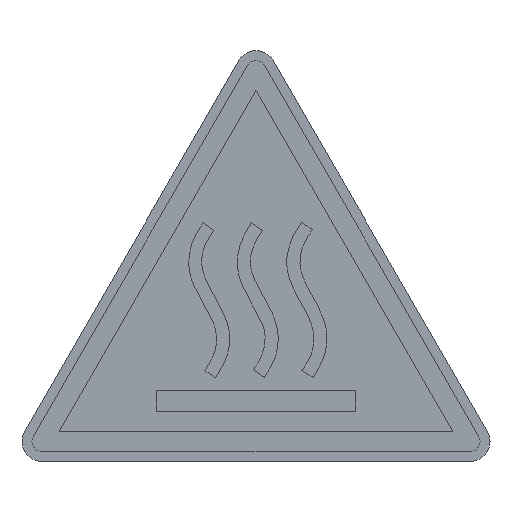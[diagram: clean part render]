
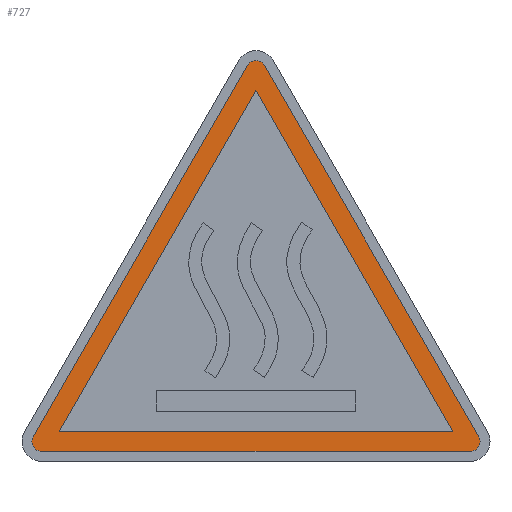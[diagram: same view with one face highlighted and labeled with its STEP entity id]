
A CAD part, top view. The second image highlights one B-rep face of the part: STEP entity #727.
In plain terms, the highlighted planar face has unit normal (0, 0, 1).
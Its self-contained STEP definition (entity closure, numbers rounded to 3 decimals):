
#32 = CARTESIAN_POINT ( 'NONE',  ( 0., 39.301, 0.22 ) ) ;
#37 = PLANE ( 'NONE',  #1586 ) ;
#65 = LINE ( 'NONE', #1254, #1552 ) ;
#87 = CIRCLE ( 'NONE', #310, 1. ) ;
#159 = CARTESIAN_POINT ( 'NONE',  ( 19.804, 3., 0.22 ) ) ;
#160 = CARTESIAN_POINT ( 'NONE',  ( 0., 37.301, 0.22 ) ) ;
#162 = CARTESIAN_POINT ( 'NONE',  ( -21.536, 2., 0.22 ) ) ;
#163 = CIRCLE ( 'NONE', #905, 1. ) ;
#211 = EDGE_CURVE ( 'NONE', #824, #1901, #65, .T. ) ;
#219 = VECTOR ( 'NONE', #1136, 1000. ) ;
#242 = ORIENTED_EDGE ( 'NONE', *, *, #1148, .T. ) ;
#305 = AXIS2_PLACEMENT_3D ( 'NONE', #810, #477, #1407 ) ;
#310 = AXIS2_PLACEMENT_3D ( 'NONE', #162, #319, #603 ) ;
#316 = FACE_BOUND ( 'NONE', #1128, .T. ) ;
#319 = DIRECTION ( 'NONE',  ( 0., 0., 1. ) ) ;
#323 = CARTESIAN_POINT ( 'NONE',  ( -19.804, 3., 0.22 ) ) ;
#345 = CARTESIAN_POINT ( 'NONE',  ( 22.402, 2.5, 0.22 ) ) ;
#363 = VERTEX_POINT ( 'NONE', #652 ) ;
#382 = ORIENTED_EDGE ( 'NONE', *, *, #555, .T. ) ;
#398 = CARTESIAN_POINT ( 'NONE',  ( 21.536, 1., 0.22 ) ) ;
#477 = DIRECTION ( 'NONE',  ( 0., 0., 1. ) ) ;
#478 = LINE ( 'NONE', #159, #1037 ) ;
#481 = DIRECTION ( 'NONE',  ( 0., 0., 1. ) ) ;
#486 = DIRECTION ( 'NONE',  ( 1., 0., 0. ) ) ;
#549 = ORIENTED_EDGE ( 'NONE', *, *, #1019, .F. ) ;
#555 = EDGE_CURVE ( 'NONE', #557, #824, #163, .T. ) ;
#557 = VERTEX_POINT ( 'NONE', #605 ) ;
#565 = AXIS2_PLACEMENT_3D ( 'NONE', #1380, #1224, #1539 ) ;
#600 = CARTESIAN_POINT ( 'NONE',  ( -22.536, 2., 0.22 ) ) ;
#603 = DIRECTION ( 'NONE',  ( 1., 0., 0. ) ) ;
#605 = CARTESIAN_POINT ( 'NONE',  ( 0.866, 39.801, 0.22 ) ) ;
#619 = DIRECTION ( 'NONE',  ( -0.5, 0.866, 0. ) ) ;
#630 = CARTESIAN_POINT ( 'NONE',  ( 0., 39.301, 0.22 ) ) ;
#634 = EDGE_CURVE ( 'NONE', #1901, #717, #1413, .T. ) ;
#652 = CARTESIAN_POINT ( 'NONE',  ( -21.536, 1., 0.22 ) ) ;
#684 = VECTOR ( 'NONE', #788, 1000. ) ;
#708 = CIRCLE ( 'NONE', #305, 1. ) ;
#717 = VERTEX_POINT ( 'NONE', #600 ) ;
#727 = ADVANCED_FACE ( 'NONE', ( #1500, #316 ), #37, .T. ) ;
#729 = LINE ( 'NONE', #160, #1187 ) ;
#788 = DIRECTION ( 'NONE',  ( 1., 0., 0. ) ) ;
#810 = CARTESIAN_POINT ( 'NONE',  ( 21.536, 2., 0.22 ) ) ;
#824 = VERTEX_POINT ( 'NONE', #1779 ) ;
#841 = EDGE_CURVE ( 'NONE', #717, #363, #87, .T. ) ;
#845 = VERTEX_POINT ( 'NONE', #1526 ) ;
#852 = ORIENTED_EDGE ( 'NONE', *, *, #1123, .F. ) ;
#864 = VERTEX_POINT ( 'NONE', #323 ) ;
#875 = EDGE_LOOP ( 'NONE', ( #382, #1020, #969, #1844, #1157, #1866, #242 ) ) ;
#905 = AXIS2_PLACEMENT_3D ( 'NONE', #32, #481, #1201 ) ;
#932 = DIRECTION ( 'NONE',  ( 0., 0., 1. ) ) ;
#969 = ORIENTED_EDGE ( 'NONE', *, *, #634, .T. ) ;
#983 = ORIENTED_EDGE ( 'NONE', *, *, #986, .F. ) ;
#986 = EDGE_CURVE ( 'NONE', #845, #1428, #478, .T. ) ;
#1019 = EDGE_CURVE ( 'NONE', #864, #845, #1543, .T. ) ;
#1020 = ORIENTED_EDGE ( 'NONE', *, *, #211, .T. ) ;
#1026 = VERTEX_POINT ( 'NONE', #345 ) ;
#1037 = VECTOR ( 'NONE', #1196, 1000. ) ;
#1050 = CARTESIAN_POINT ( 'NONE',  ( 22.402, 2.5, 0.22 ) ) ;
#1092 = VECTOR ( 'NONE', #619, 1000. ) ;
#1123 = EDGE_CURVE ( 'NONE', #1428, #864, #729, .T. ) ;
#1128 = EDGE_LOOP ( 'NONE', ( #549, #852, #983 ) ) ;
#1136 = DIRECTION ( 'NONE',  ( 1., 0., 0. ) ) ;
#1148 = EDGE_CURVE ( 'NONE', #1026, #557, #1801, .T. ) ;
#1157 = ORIENTED_EDGE ( 'NONE', *, *, #1393, .T. ) ;
#1187 = VECTOR ( 'NONE', #1811, 1000. ) ;
#1196 = DIRECTION ( 'NONE',  ( -0.5, 0.866, 0. ) ) ;
#1201 = DIRECTION ( 'NONE',  ( 1., 0., 0. ) ) ;
#1224 = DIRECTION ( 'NONE',  ( 0., 0., 1. ) ) ;
#1254 = CARTESIAN_POINT ( 'NONE',  ( -0.866, 39.801, 0.22 ) ) ;
#1377 = CARTESIAN_POINT ( 'NONE',  ( -22.402, 2.5, 0.22 ) ) ;
#1380 = CARTESIAN_POINT ( 'NONE',  ( -21.536, 2., 0.22 ) ) ;
#1393 = EDGE_CURVE ( 'NONE', #363, #1423, #1740, .T. ) ;
#1407 = DIRECTION ( 'NONE',  ( 1., 0., 0. ) ) ;
#1413 = CIRCLE ( 'NONE', #565, 1. ) ;
#1423 = VERTEX_POINT ( 'NONE', #398 ) ;
#1428 = VERTEX_POINT ( 'NONE', #1569 ) ;
#1500 = FACE_OUTER_BOUND ( 'NONE', #875, .T. ) ;
#1526 = CARTESIAN_POINT ( 'NONE',  ( 19.804, 3., 0.22 ) ) ;
#1539 = DIRECTION ( 'NONE',  ( 1., 0., 0. ) ) ;
#1543 = LINE ( 'NONE', #1854, #684 ) ;
#1552 = VECTOR ( 'NONE', #1745, 1000. ) ;
#1569 = CARTESIAN_POINT ( 'NONE',  ( 0., 37.301, 0.22 ) ) ;
#1586 = AXIS2_PLACEMENT_3D ( 'NONE', #630, #932, #486 ) ;
#1590 = CARTESIAN_POINT ( 'NONE',  ( -21.536, 1., 0.22 ) ) ;
#1596 = EDGE_CURVE ( 'NONE', #1423, #1026, #708, .T. ) ;
#1740 = LINE ( 'NONE', #1590, #219 ) ;
#1745 = DIRECTION ( 'NONE',  ( -0.5, -0.866, 0. ) ) ;
#1779 = CARTESIAN_POINT ( 'NONE',  ( -0.866, 39.801, 0.22 ) ) ;
#1801 = LINE ( 'NONE', #1050, #1092 ) ;
#1811 = DIRECTION ( 'NONE',  ( -0.5, -0.866, 0. ) ) ;
#1844 = ORIENTED_EDGE ( 'NONE', *, *, #841, .T. ) ;
#1854 = CARTESIAN_POINT ( 'NONE',  ( -19.804, 3., 0.22 ) ) ;
#1866 = ORIENTED_EDGE ( 'NONE', *, *, #1596, .T. ) ;
#1901 = VERTEX_POINT ( 'NONE', #1377 ) ;
